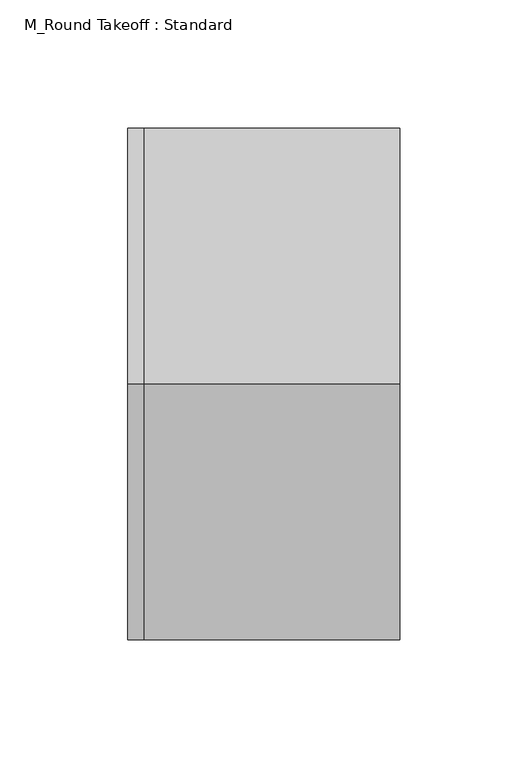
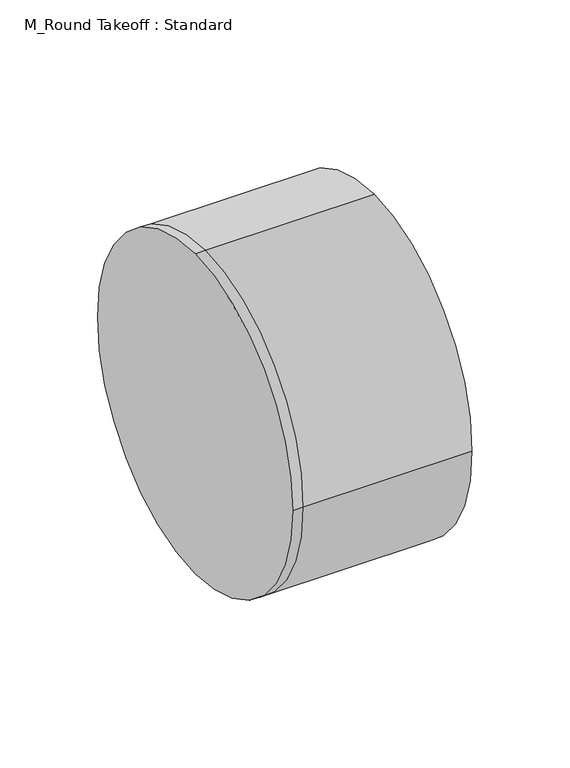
"""IFC4 building model written with IfcOpenShell, lengths in millimetres: duct fitting geometry, M_Round Takeoff : Standard."""

from ifc_helpers import new_model, si_unit, frame, origin, place, context, project, spatial, circle_curve, source, transform, mapped, element, save
from ifc_brep_helpers import plane_surface, cylinder_surface, advanced_brep


def m_round_takeoff_standard_45336e8a(model_context):
    return source(origin(), model_context, "Body", "AdvancedBrep", [
        advanced_brep(
        [(-6.096, 0.0, 100.0), (-6.096, 100.0, 0.0), (-6.096, 0.0, -100.0), (-6.096, -100.0, 0.0), (0.0, 0.0, 100.0), (0.0, 100.0, 0.0), (0.0, 0.0, -100.0), (0.0, -100.0, 0.0), (100.0, 0.0, 100.0), (100.0, -100.0, 0.0), (100.0, 0.0, -100.0), (100.0, 100.0, 0.0)],
        [
            (0, 1, circle_curve(frame((-6.096, 0.0, 0.0), z_axis=(-1.0, 0.0, 0.0), x_axis=(0.0, 1.0, 0.0)), 100.0)),
            (1, 2, circle_curve(frame((-6.096, 0.0, 0.0), z_axis=(-1.0, 0.0, 0.0), x_axis=(0.0, 1.0, 0.0)), 100.0)),
            (2, 3, circle_curve(frame((-6.096, 0.0, 0.0), z_axis=(-1.0, 0.0, 0.0), x_axis=(0.0, 1.0, 0.0)), 100.0)),
            (3, 0, circle_curve(frame((-6.096, 0.0, 0.0), z_axis=(-1.0, 0.0, 0.0), x_axis=(0.0, 1.0, 0.0)), 100.0)),
            (0, 4),
            (4, 5, circle_curve(frame((0.0, 0.0, 0.0), z_axis=(-1.0, 0.0, 0.0), x_axis=(0.0, 1.0, 0.0)), 100.0)),
            (5, 1),
            (5, 6, circle_curve(frame((0.0, 0.0, 0.0), z_axis=(-1.0, 0.0, 0.0), x_axis=(0.0, 1.0, 0.0)), 100.0)),
            (6, 2),
            (6, 7, circle_curve(frame((0.0, 0.0, 0.0), z_axis=(-1.0, 0.0, 0.0), x_axis=(0.0, 1.0, 0.0)), 100.0)),
            (7, 3),
            (7, 4, circle_curve(frame((0.0, 0.0, 0.0), z_axis=(-1.0, 0.0, 0.0), x_axis=(0.0, 1.0, 0.0)), 100.0)),
            (8, 9, circle_curve(frame((100.0, 0.0, 0.0), z_axis=(1.0, 0.0, 0.0), x_axis=(0.0, 1.0, 0.0)), 100.0)),
            (9, 10, circle_curve(frame((100.0, 0.0, 0.0), z_axis=(1.0, 0.0, 0.0), x_axis=(0.0, 1.0, 0.0)), 100.0)),
            (10, 11, circle_curve(frame((100.0, 0.0, 0.0), z_axis=(1.0, 0.0, 0.0), x_axis=(0.0, 1.0, 0.0)), 100.0)),
            (11, 8, circle_curve(frame((100.0, 0.0, 0.0), z_axis=(1.0, 0.0, 0.0), x_axis=(0.0, 1.0, 0.0)), 100.0)),
            (11, 5),
            (4, 8),
            (10, 6),
            (9, 7),
        ],
        [
            plane_surface(frame((-6.096, 0.0, 0.0), z_axis=(-1.0, 0.0, 0.0), x_axis=(0.0, 0.0, 1.0))),
            cylinder_surface(frame((-6.096, 0.0, 0.0), z_axis=(-1.0, 0.0, 0.0), x_axis=(0.0, 1.0, 0.0)), 100.0),
            plane_surface(frame((100.0, 0.0, 0.0), z_axis=(1.0, 0.0, 0.0), x_axis=(0.0, 0.0, 1.0))),
            cylinder_surface(frame((0.0, 0.0, 0.0), z_axis=(-1.0, 0.0, 0.0), x_axis=(0.0, 1.0, 0.0)), 100.0),
        ],
        [
            (0, [[1, 2, 3, 4]]),
            (1, [[-1, 5, 6, 7]]),
            (1, [[-2, -7, 8, 9]]),
            (1, [[-3, -9, 10, 11]]),
            (1, [[-4, -11, 12, -5]]),
            (2, [[13, 14, 15, 16]]),
            (3, [[-16, 17, -6, 18]]),
            (3, [[-15, 19, -8, -17]]),
            (3, [[-14, 20, -10, -19]]),
            (3, [[-13, -18, -12, -20]]),
        ],
    ),
        advanced_brep(
        [(100.0, 0.0, 100.0), (100.0, -100.0, 0.0), (100.0, 0.0, -100.0), (100.0, 100.0, 0.0), (0.0, 100.0, 0.0), (0.0, 0.0, 100.0), (0.0, 0.0, -100.0), (0.0, -100.0, 0.0), (-6.096, 0.0, 100.0), (-6.096, 100.0, 0.0), (-6.096, 0.0, -100.0), (-6.096, -100.0, 0.0)],
        [
            (0, 1, circle_curve(frame((100.0, 0.0, 0.0), z_axis=(1.0, 0.0, 0.0), x_axis=(0.0, 1.0, 0.0)), 100.0)),
            (1, 2, circle_curve(frame((100.0, 0.0, 0.0), z_axis=(1.0, 0.0, 0.0), x_axis=(0.0, 1.0, 0.0)), 100.0)),
            (2, 3, circle_curve(frame((100.0, 0.0, 0.0), z_axis=(1.0, 0.0, 0.0), x_axis=(0.0, 1.0, 0.0)), 100.0)),
            (3, 0, circle_curve(frame((100.0, 0.0, 0.0), z_axis=(1.0, 0.0, 0.0), x_axis=(0.0, 1.0, 0.0)), 100.0)),
            (3, 4),
            (4, 5, circle_curve(frame((0.0, 0.0, 0.0), z_axis=(1.0, 0.0, 0.0), x_axis=(0.0, 1.0, 0.0)), 100.0)),
            (5, 0),
            (2, 6),
            (6, 4, circle_curve(frame((0.0, 0.0, 0.0), z_axis=(1.0, 0.0, 0.0), x_axis=(0.0, 1.0, 0.0)), 100.0)),
            (1, 7),
            (7, 6, circle_curve(frame((0.0, 0.0, 0.0), z_axis=(1.0, 0.0, 0.0), x_axis=(0.0, 1.0, 0.0)), 100.0)),
            (5, 7, circle_curve(frame((0.0, 0.0, 0.0), z_axis=(1.0, 0.0, 0.0), x_axis=(0.0, 1.0, 0.0)), 100.0)),
            (8, 9, circle_curve(frame((-6.096, 0.0, 0.0), z_axis=(-1.0, 0.0, 0.0), x_axis=(0.0, 1.0, 0.0)), 100.0)),
            (9, 10, circle_curve(frame((-6.096, 0.0, 0.0), z_axis=(-1.0, 0.0, 0.0), x_axis=(0.0, 1.0, 0.0)), 100.0)),
            (10, 11, circle_curve(frame((-6.096, 0.0, 0.0), z_axis=(-1.0, 0.0, 0.0), x_axis=(0.0, 1.0, 0.0)), 100.0)),
            (11, 8, circle_curve(frame((-6.096, 0.0, 0.0), z_axis=(-1.0, 0.0, 0.0), x_axis=(0.0, 1.0, 0.0)), 100.0)),
            (8, 5),
            (4, 9),
            (6, 10),
            (7, 11),
        ],
        [
            plane_surface(frame((100.0, 0.0, 0.0), z_axis=(1.0, 0.0, 0.0), x_axis=(0.0, 0.0, 1.0))),
            cylinder_surface(frame((0.0, 0.0, 0.0), z_axis=(-1.0, 0.0, 0.0), x_axis=(0.0, 1.0, 0.0)), 100.0),
            plane_surface(frame((-6.096, 0.0, 0.0), z_axis=(-1.0, 0.0, 0.0), x_axis=(0.0, 0.0, 1.0))),
            cylinder_surface(frame((-6.096, 0.0, 0.0), z_axis=(-1.0, 0.0, 0.0), x_axis=(0.0, 1.0, 0.0)), 100.0),
        ],
        [
            (0, [[1, 2, 3, 4]]),
            (1, [[-4, 5, 6, 7]]),
            (1, [[-3, 8, 9, -5]]),
            (1, [[-2, 10, 11, -8]]),
            (1, [[-1, -7, 12, -10]]),
            (2, [[13, 14, 15, 16]]),
            (3, [[-13, 17, -6, 18]]),
            (3, [[-14, -18, -9, 19]]),
            (3, [[-15, -19, -11, 20]]),
            (3, [[-16, -20, -12, -17]]),
        ],
    ),
        advanced_brep(
        [(-6.096, 0.0, 100.0), (-6.096, 100.0, 0.0), (-6.096, 0.0, -100.0), (-6.096, -100.0, 0.0), (0.0, 0.0, 100.0), (0.0, 100.0, 0.0), (0.0, 0.0, -100.0), (0.0, -100.0, 0.0), (100.0, 0.0, 100.0), (100.0, -100.0, 0.0), (100.0, 0.0, -100.0), (100.0, 100.0, 0.0)],
        [
            (0, 1, circle_curve(frame((-6.096, 0.0, 0.0), z_axis=(-1.0, 0.0, 0.0), x_axis=(0.0, 1.0, 0.0)), 100.0)),
            (1, 2, circle_curve(frame((-6.096, 0.0, 0.0), z_axis=(-1.0, 0.0, 0.0), x_axis=(0.0, 1.0, 0.0)), 100.0)),
            (2, 3, circle_curve(frame((-6.096, 0.0, 0.0), z_axis=(-1.0, 0.0, 0.0), x_axis=(0.0, 1.0, 0.0)), 100.0)),
            (3, 0, circle_curve(frame((-6.096, 0.0, 0.0), z_axis=(-1.0, 0.0, 0.0), x_axis=(0.0, 1.0, 0.0)), 100.0)),
            (0, 4),
            (4, 5, circle_curve(frame((0.0, 0.0, 0.0), z_axis=(-1.0, 0.0, 0.0), x_axis=(0.0, 1.0, 0.0)), 100.0)),
            (5, 1),
            (5, 6, circle_curve(frame((0.0, 0.0, 0.0), z_axis=(-1.0, 0.0, 0.0), x_axis=(0.0, 1.0, 0.0)), 100.0)),
            (6, 2),
            (6, 7, circle_curve(frame((0.0, 0.0, 0.0), z_axis=(-1.0, 0.0, 0.0), x_axis=(0.0, 1.0, 0.0)), 100.0)),
            (7, 3),
            (7, 4, circle_curve(frame((0.0, 0.0, 0.0), z_axis=(-1.0, 0.0, 0.0), x_axis=(0.0, 1.0, 0.0)), 100.0)),
            (8, 9, circle_curve(frame((100.0, 0.0, 0.0), z_axis=(1.0, 0.0, 0.0), x_axis=(0.0, 1.0, 0.0)), 100.0)),
            (9, 10, circle_curve(frame((100.0, 0.0, 0.0), z_axis=(1.0, 0.0, 0.0), x_axis=(0.0, 1.0, 0.0)), 100.0)),
            (10, 11, circle_curve(frame((100.0, 0.0, 0.0), z_axis=(1.0, 0.0, 0.0), x_axis=(0.0, 1.0, 0.0)), 100.0)),
            (11, 8, circle_curve(frame((100.0, 0.0, 0.0), z_axis=(1.0, 0.0, 0.0), x_axis=(0.0, 1.0, 0.0)), 100.0)),
            (11, 5),
            (4, 8),
            (10, 6),
            (9, 7),
        ],
        [
            plane_surface(frame((-6.096, 0.0, 0.0), z_axis=(-1.0, 0.0, 0.0), x_axis=(0.0, 0.0, 1.0))),
            cylinder_surface(frame((-6.096, 0.0, 0.0), z_axis=(-1.0, 0.0, 0.0), x_axis=(0.0, 1.0, 0.0)), 100.0),
            plane_surface(frame((100.0, 0.0, 0.0), z_axis=(1.0, 0.0, 0.0), x_axis=(0.0, 0.0, 1.0))),
            cylinder_surface(frame((0.0, 0.0, 0.0), z_axis=(-1.0, 0.0, 0.0), x_axis=(0.0, 1.0, 0.0)), 100.0),
        ],
        [
            (0, [[1, 2, 3, 4]]),
            (1, [[-1, 5, 6, 7]]),
            (1, [[-2, -7, 8, 9]]),
            (1, [[-3, -9, 10, 11]]),
            (1, [[-4, -11, 12, -5]]),
            (2, [[13, 14, 15, 16]]),
            (3, [[-16, 17, -6, 18]]),
            (3, [[-15, 19, -8, -17]]),
            (3, [[-14, 20, -10, -19]]),
            (3, [[-13, -18, -12, -20]]),
        ],
    ),
    ])


if __name__ == "__main__":
    model = new_model("IFC4")
    model_context = context("Model", 3, world=origin())
    ifc_project = project(units=[si_unit("LENGTHUNIT", "METRE", prefix="MILLI")], contexts=[model_context])
    site = spatial("IfcSite", under=ifc_project)
    building = spatial("IfcBuilding", under=site)
    placement = place(None, origin())
    m_round_takeoff_standard_shape = m_round_takeoff_standard_45336e8a(model_context)
    element("IfcDuctFitting", 1, ObjectType="M_Round Takeoff : Standard", at=placement, inside=building, context=model_context, shape_type="MappedRepresentation", body=[
        mapped(m_round_takeoff_standard_shape, transform((0.0, 0.0, 0.0), x_axis=(1.0, 0.0, 0.0), y_axis=(0.0, 1.0, 0.0), z_axis=(0.0, 0.0, 1.0))),
    ])
    save(model, "model.ifc")
